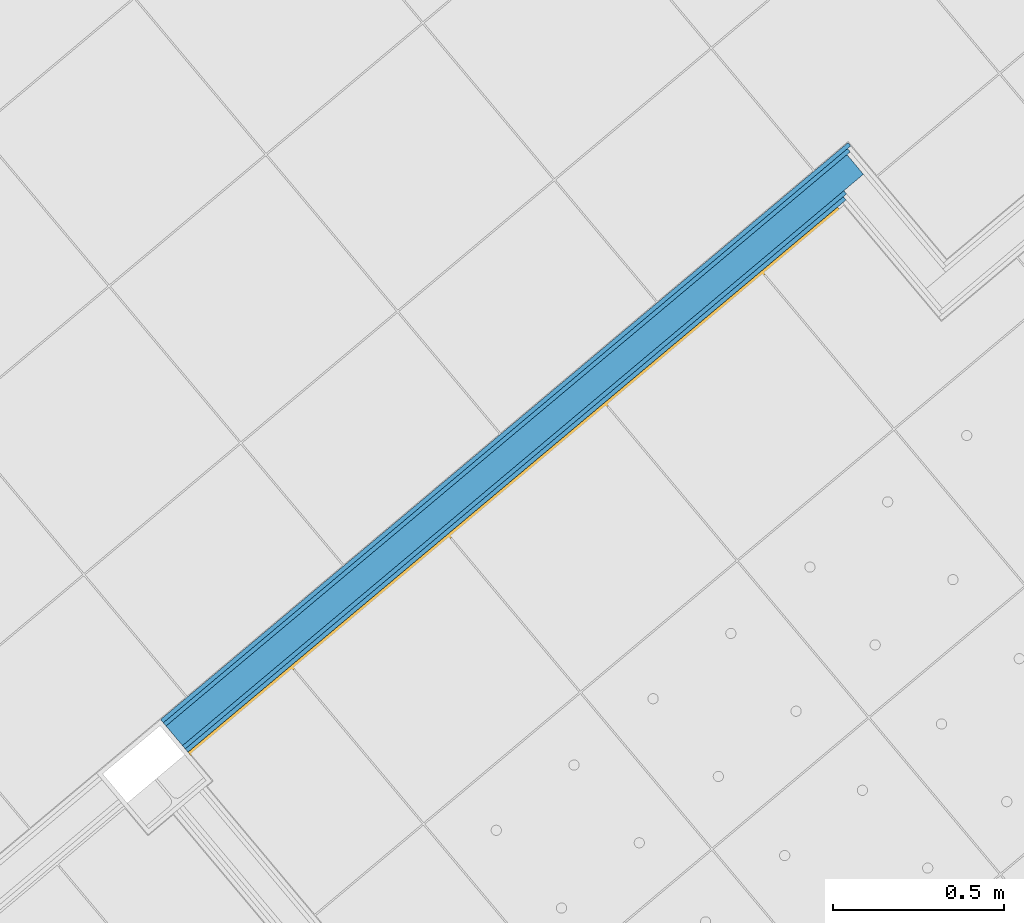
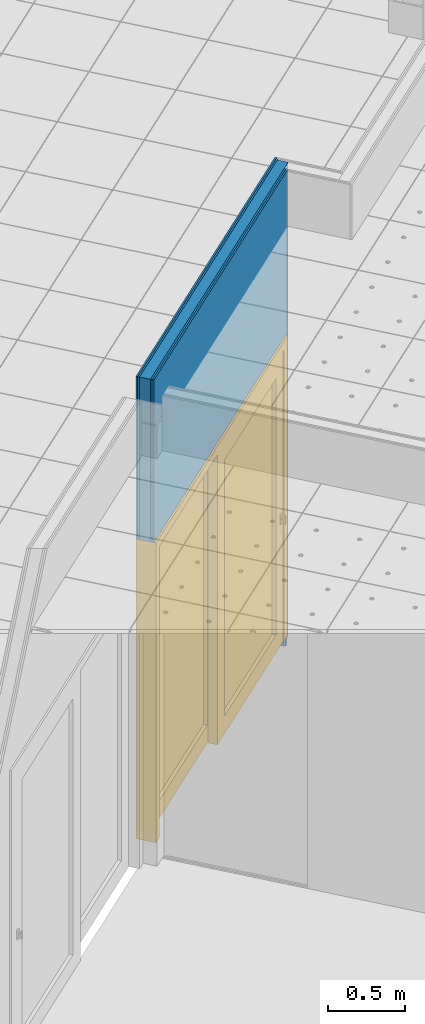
# One storey, part 8 of 338: 5 building element parts, 1 door, 1 opening, 1 element without a shape of its own.
"""IFC2X3 building model written with IfcOpenShell, lengths in millimetres."""

from ifc_helpers import new_model, entity, si_unit, converted_unit, derived_unit, money_unit, direction, frame, origin_with_axes, place, context, subcontext, project, spatial, open_shell, faceted_brep, surface_model, source, transform, mapped, material, type_object, type_shapes, element, fill, aggregate, save


model = new_model("IFC2X3")

# Units and contexts
model_context = context("Model", 3, precision=0.01, world=origin_with_axes(), true_north=direction((0.0, 1.0)))
plan_context = context("Plan", 3, precision=0.01, world=origin_with_axes(), true_north=direction((0.0, 1.0)))
body_context = subcontext(model_context, "Body", "Model", "MODEL_VIEW")
ifc_project = project(units=[si_unit("LENGTHUNIT", "METRE", prefix="MILLI"), si_unit("AREAUNIT", "SQUARE_METRE"), si_unit("VOLUMEUNIT", "CUBIC_METRE"), converted_unit("PLANEANGLEUNIT", "DEGREE", entity("IfcPlaneAngleMeasure", 0.0174532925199), si_unit("PLANEANGLEUNIT", "RADIAN"), dimensions=[0, 0, 0, 0, 0, 0, 0]), money_unit("EUR"), converted_unit("TIMEUNIT", "Year", entity("IfcTimeMeasure", 31556926.0), si_unit("TIMEUNIT", "SECOND"), dimensions=[0, 0, 1, 0, 0, 0, 0]), si_unit("MASSUNIT", "GRAM", prefix="KILO"), si_unit("THERMODYNAMICTEMPERATUREUNIT", "DEGREE_CELSIUS"), si_unit("LUMINOUSINTENSITYUNIT", "LUMEN"), si_unit("ENERGYUNIT", "JOULE", prefix="MEGA"), derived_unit("THERMALCONDUCTANCEUNIT", [(si_unit("POWERUNIT", "WATT"), 1), (si_unit("LENGTHUNIT", "METRE"), -1), (si_unit("THERMODYNAMICTEMPERATUREUNIT", "KELVIN"), -1)]), derived_unit("SPECIFICHEATCAPACITYUNIT", [(si_unit("ENERGYUNIT", "JOULE"), 1), (si_unit("MASSUNIT", "GRAM", prefix="KILO"), -1), (si_unit("THERMODYNAMICTEMPERATUREUNIT", "KELVIN"), -1)]), derived_unit("MASSDENSITYUNIT", [(si_unit("MASSUNIT", "GRAM", prefix="KILO"), 1), (si_unit("VOLUMEUNIT", "CUBIC_METRE"), -1)])], contexts=[model_context, plan_context])

# Site, building, storey
site_placement = place(None, origin_with_axes())
site = spatial("IfcSite", under=ifc_project, at=site_placement, Name="Fortuinstraat Woensdrecht", CompositionType="ELEMENT")
building_placement = place(site_placement, origin_with_axes())
building = spatial("IfcBuilding", under=site, at=building_placement, Name="IKC Fortuna", CompositionType="ELEMENT")
storey_placement = place(building_placement, origin_with_axes())
storey = spatial("IfcBuildingStorey", under=building, at=storey_placement, Name="00 begane grond", CompositionType="ELEMENT", Elevation=0.0)

# Door
door_style = type_object("IfcDoorStyle", Name="DSn 25", ConstructionType="NOTDEFINED", OperationType="USERDEFINED", ParameterTakesPrecedence=False, Sizeable=False)
shared_shape = source(origin_with_axes(), body_context, "Body", "SurfaceModel", [
    faceted_brep([(1242.5, 0.0, 0.0), (1242.5, -139.0, 0.0), (1175.5, -139.0, 0.0), (1175.5, 0.0, 0.0), (1242.5, 0.0, 2300.0), (1242.5, -139.0, 2300.0), (1175.5, -139.0, 2300.0), (1175.5, 0.0, 2300.0)], [[[0, 1, 2, 3]], [[4, 5, 1, 0]], [[1, 5, 6, 2]], [[3, 2, 6, 7]], [[0, 3, 7, 4]], [[7, 6, 5, 4]]]),
    faceted_brep([(-1242.5, 0.0, 0.0), (-1242.5, -139.0, 0.0), (-1242.5, -139.0, 2300.0), (-1242.5, 0.0, 2300.0), (-1175.5, 0.0, 0.0), (-1175.5, -139.0, 0.0), (-1175.5, -139.0, 2300.0), (-1175.5, 0.0, 2300.0)], [[[0, 1, 2, 3]], [[4, 5, 1, 0]], [[1, 5, 6, 2]], [[3, 2, 6, 7]], [[0, 3, 7, 4]], [[7, 6, 5, 4]]]),
    faceted_brep([(1242.5, 0.0, 2367.0), (1242.5, -139.0, 2367.0), (1242.5, -139.0, 2300.0), (1242.5, 0.0, 2300.0), (-1242.5, 0.0, 2367.0), (-1242.5, -139.0, 2367.0), (-1242.5, -139.0, 2300.0), (-1175.5, -139.0, 2300.0), (1175.5, -139.0, 2300.0), (1175.5, 0.0, 2300.0), (-1175.5, 0.0, 2300.0), (-1242.5, 0.0, 2300.0)], [[[0, 1, 2, 3]], [[4, 5, 1, 0]], [[1, 5, 6, 7, 8, 2]], [[3, 2, 8, 9]], [[0, 3, 9, 10, 11, 4]], [[11, 6, 5, 4]], [[10, 7, 6, 11]], [[9, 8, 7, 10]]]),
    faceted_brep([(-1175.5, 0.0, 139.0), (-1036.5, 0.0, 139.0), (-1036.5, -64.5, 139.0), (-1175.5, -64.5, 139.0), (-1175.5, 0.0, 2161.0), (-1036.5, 0.0, 2161.0), (-1036.5, -64.5, 2161.0), (-1175.5, -64.5, 2161.0)], [[[0, 1, 2, 3]], [[0, 4, 5, 1]], [[1, 5, 6, 2]], [[3, 2, 6, 7]], [[4, 0, 3, 7]], [[5, 4, 7, 6]]]),
    faceted_brep([(69.5, 0.0, 139.0), (69.5, 0.0, 2161.0), (69.5, -64.5, 2161.0), (69.5, -64.5, 139.0), (-69.5, 0.0, 139.0), (-69.5, 0.0, 2161.0), (-69.5, -64.5, 2161.0), (-69.5, -64.5, 139.0)], [[[0, 1, 2, 3]], [[0, 4, 5, 1]], [[1, 5, 6, 2]], [[3, 2, 6, 7]], [[4, 0, 3, 7]], [[5, 4, 7, 6]]]),
    faceted_brep([(-1175.5, 0.0, 0.0), (69.5, 0.0, 0.0), (69.5, -64.5, 0.0), (-1175.5, -64.5, 0.0), (-1175.5, 0.0, 139.0), (-1036.5, 0.0, 139.0), (-69.5, 0.0, 139.0), (69.5, 0.0, 139.0), (69.5, -64.5, 139.0), (-69.5, -64.5, 139.0), (-1036.5, -64.5, 139.0), (-1175.5, -64.5, 139.0)], [[[0, 1, 2, 3]], [[0, 4, 5, 6, 7, 1]], [[1, 7, 8, 2]], [[3, 2, 8, 9, 10, 11]], [[4, 0, 3, 11]], [[5, 4, 11, 10]], [[6, 5, 10, 9]], [[7, 6, 9, 8]]]),
    faceted_brep([(-1175.5, 0.0, 2300.0), (-1175.5, 0.0, 2161.0), (-1175.5, -64.5, 2161.0), (-1175.5, -64.5, 2300.0), (69.5, 0.0, 2300.0), (69.5, 0.0, 2161.0), (-69.5, 0.0, 2161.0), (-1036.5, 0.0, 2161.0), (-1036.5, -64.5, 2161.0), (-69.5, -64.5, 2161.0), (69.5, -64.5, 2161.0), (69.5, -64.5, 2300.0)], [[[0, 1, 2, 3]], [[0, 4, 5, 6, 7, 1]], [[1, 7, 8, 2]], [[3, 2, 8, 9, 10, 11]], [[4, 0, 3, 11]], [[5, 4, 11, 10]], [[6, 5, 10, 9]], [[7, 6, 9, 8]]]),
    surface_model("IfcShellBasedSurfaceModel", [(-1036.5, -26.25, 139.0), (-1036.5, -26.25, 2161.0), (-69.5, -26.25, 2161.0), (-69.5, -26.25, 139.0)], [open_shell([[[0, 1, 2, 3]]])]),
    surface_model("IfcShellBasedSurfaceModel", [(-1036.5, -38.25, 139.0), (-69.5, -38.25, 139.0), (-69.5, -38.25, 2161.0), (-1036.5, -38.25, 2161.0)], [open_shell([[[0, 1, 2, 3]]])]),
    faceted_brep([(1110.5, -134.0, 965.0), (1110.5, -144.0, 965.0), (1110.5, -144.0, 1035.0), (1110.5, -134.0, 1035.0), (1140.5, -134.0, 965.0), (1140.5, -144.0, 965.0), (1140.5, -144.0, 1035.0), (1140.5, -134.0, 1035.0)], [[[0, 1, 2, 3]], [[4, 5, 1, 0]], [[1, 5, 6, 2]], [[3, 2, 6, 7]], [[0, 3, 7, 4]], [[7, 6, 5, 4]]]),
    faceted_brep([(1124.13436775, -144.0, 1006.86549696), (1125.5, -144.0, 1007.0), (1126.86563225, -144.0, 1006.86549696), (1128.17878403, -144.0, 1006.46715673), (1129.38899163, -144.0, 1005.82028729), (1130.44974747, -144.0, 1004.94974747), (1131.32028729, -144.0, 1003.88899163), (1131.96715673, -144.0, 1002.67878403), (1132.36549696, -144.0, 1001.36563225), (1132.5, -144.0, 1000.0), (1132.36549696, -144.0, 998.634367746), (1131.96715673, -144.0, 997.321215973), (1131.32028729, -144.0, 996.111008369), (1130.44974747, -144.0, 995.050252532), (1129.38899163, -144.0, 994.179712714), (1128.17878403, -144.0, 993.532843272), (1126.86563225, -144.0, 993.134503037), (1125.5, -144.0, 993.0), (1124.13436775, -144.0, 993.134503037), (1122.82121597, -144.0, 993.532843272), (1121.61100837, -144.0, 994.179712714), (1120.55025253, -144.0, 995.050252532), (1119.67971271, -144.0, 996.111008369), (1119.03284327, -144.0, 997.321215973), (1118.63450304, -144.0, 998.634367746), (1118.5, -144.0, 1000.0), (1118.63450304, -144.0, 1001.36563225), (1119.03284327, -144.0, 1002.67878403), (1119.67971271, -144.0, 1003.88899163), (1120.55025253, -144.0, 1004.94974747), (1121.61100837, -144.0, 1005.82028729), (1122.82121597, -144.0, 1006.46715673), (1124.13436775, -159.0, 1006.86549696), (1125.5, -159.0, 1007.0), (1126.86563225, -159.0, 1006.86549696), (1128.17878403, -159.0, 1006.46715673), (1129.38899163, -159.0, 1005.82028729), (1130.44974747, -159.0, 1004.94974747), (1131.32028729, -159.0, 1003.88899163), (1131.96715673, -159.0, 1002.67878403), (1132.36549696, -159.0, 1001.36563225), (1132.5, -159.0, 1000.0), (1132.36549696, -159.0, 998.634367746), (1131.96715673, -159.0, 997.321215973), (1131.32028729, -159.0, 996.111008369), (1130.44974747, -159.0, 995.050252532), (1129.38899163, -159.0, 994.179712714), (1128.17878403, -159.0, 993.532843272), (1126.86563225, -159.0, 993.134503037), (1125.5, -159.0, 993.0), (1124.13436775, -159.0, 993.134503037), (1122.82121597, -159.0, 993.532843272), (1121.61100837, -159.0, 994.179712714), (1120.55025253, -159.0, 995.050252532), (1119.67971271, -159.0, 996.111008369), (1119.03284327, -159.0, 997.321215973), (1118.63450304, -159.0, 998.634367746), (1118.5, -159.0, 1000.0), (1118.63450304, -159.0, 1001.36563225), (1119.03284327, -159.0, 1002.67878403), (1119.67971271, -159.0, 1003.88899163), (1120.55025253, -159.0, 1004.94974747), (1121.61100837, -159.0, 1005.82028729), (1122.82121597, -159.0, 1006.46715673)], [[[0, 1, 2, 3, 4, 5, 6, 7, 8, 9, 10, 11, 12, 13, 14, 15, 16, 17, 18, 19, 20, 21, 22, 23, 24, 25, 26, 27, 28, 29, 30, 31]], [[0, 32, 33, 1]], [[1, 33, 34, 2]], [[2, 34, 35, 3]], [[3, 35, 36, 4]], [[4, 36, 37, 5]], [[5, 37, 38, 6]], [[6, 38, 39, 7]], [[7, 39, 40, 8]], [[8, 40, 41, 9]], [[9, 41, 42, 10]], [[10, 42, 43, 11]], [[11, 43, 44, 12]], [[12, 44, 45, 13]], [[13, 45, 46, 14]], [[14, 46, 47, 15]], [[15, 47, 48, 16]], [[16, 48, 49, 17]], [[17, 49, 50, 18]], [[18, 50, 51, 19]], [[19, 51, 52, 20]], [[20, 52, 53, 21]], [[21, 53, 54, 22]], [[22, 54, 55, 23]], [[23, 55, 56, 24]], [[24, 56, 57, 25]], [[25, 57, 58, 26]], [[26, 58, 59, 27]], [[27, 59, 60, 28]], [[28, 60, 61, 29]], [[29, 61, 62, 30]], [[30, 62, 63, 31]], [[31, 63, 32, 0]], [[32, 63, 62, 61, 60, 59, 58, 57, 56, 55, 54, 53, 52, 51, 50, 49, 48, 47, 46, 45, 44, 43, 42, 41, 40, 39, 38, 37, 36, 35, 34, 33]]]),
    faceted_brep([(1115.5, -159.0, 990.0), (1115.5, -169.0, 990.0), (1115.5, -169.0, 1010.0), (1115.5, -159.0, 1010.0), (1135.5, -159.0, 990.0), (1135.5, -169.0, 990.0), (1135.5, -169.0, 1010.0), (1135.5, -159.0, 1010.0)], [[[0, 1, 2, 3]], [[4, 5, 1, 0]], [[1, 5, 6, 2]], [[3, 2, 6, 7]], [[0, 3, 7, 4]], [[7, 6, 5, 4]]]),
    faceted_brep([(1115.5, -169.0, 990.0), (1120.5, -167.0, 965.0), (1130.5, -167.0, 965.0), (1135.5, -169.0, 990.0), (1115.5, -159.0, 990.0), (1120.5, -163.0, 965.0), (1130.5, -163.0, 965.0), (1135.5, -159.0, 990.0)], [[[0, 1, 2, 3]], [[4, 5, 1, 0]], [[1, 5, 6, 2]], [[3, 2, 6, 7]], [[0, 3, 7, 4]], [[7, 6, 5, 4]]]),
    faceted_brep([(1115.5, -169.0, 1010.0), (1135.5, -169.0, 1010.0), (1130.5, -167.0, 1035.0), (1120.5, -167.0, 1035.0), (1115.5, -159.0, 1010.0), (1135.5, -159.0, 1010.0), (1130.5, -163.0, 1035.0), (1120.5, -163.0, 1035.0)], [[[0, 1, 2, 3]], [[0, 4, 5, 1]], [[1, 5, 6, 2]], [[3, 2, 6, 7]], [[4, 0, 3, 7]], [[5, 4, 7, 6]]]),
    faceted_brep([(1110.5, -69.5, 965.0), (1110.5, -69.5, 1035.0), (1110.5, -59.5, 1035.0), (1110.5, -59.5, 965.0), (1140.5, -69.5, 965.0), (1140.5, -69.5, 1035.0), (1140.5, -59.5, 1035.0), (1140.5, -59.5, 965.0)], [[[0, 1, 2, 3]], [[0, 4, 5, 1]], [[1, 5, 6, 2]], [[3, 2, 6, 7]], [[4, 0, 3, 7]], [[5, 4, 7, 6]]]),
    faceted_brep([(1124.13436775, -59.5, 1006.86549696), (1122.82121597, -59.5, 1006.46715673), (1121.61100837, -59.5, 1005.82028729), (1120.55025253, -59.5, 1004.94974747), (1119.67971271, -59.5, 1003.88899163), (1119.03284327, -59.5, 1002.67878403), (1118.63450304, -59.5, 1001.36563225), (1118.5, -59.5, 1000.0), (1118.63450304, -59.5, 998.634367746), (1119.03284327, -59.5, 997.321215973), (1119.67971271, -59.5, 996.111008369), (1120.55025253, -59.5, 995.050252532), (1121.61100837, -59.5, 994.179712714), (1122.82121597, -59.5, 993.532843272), (1124.13436775, -59.5, 993.134503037), (1125.5, -59.5, 993.0), (1126.86563225, -59.5, 993.134503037), (1128.17878403, -59.5, 993.532843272), (1129.38899163, -59.5, 994.179712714), (1130.44974747, -59.5, 995.050252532), (1131.32028729, -59.5, 996.111008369), (1131.96715673, -59.5, 997.321215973), (1132.36549696, -59.5, 998.634367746), (1132.5, -59.5, 1000.0), (1132.36549696, -59.5, 1001.36563225), (1131.96715673, -59.5, 1002.67878403), (1131.32028729, -59.5, 1003.88899163), (1130.44974747, -59.5, 1004.94974747), (1129.38899163, -59.5, 1005.82028729), (1128.17878403, -59.5, 1006.46715673), (1126.86563225, -59.5, 1006.86549696), (1125.5, -59.5, 1007.0), (1124.13436775, -44.5, 1006.86549696), (1122.82121597, -44.5, 1006.46715673), (1121.61100837, -44.5, 1005.82028729), (1120.55025253, -44.5, 1004.94974747), (1119.67971271, -44.5, 1003.88899163), (1119.03284327, -44.5, 1002.67878403), (1118.63450304, -44.5, 1001.36563225), (1118.5, -44.5, 1000.0), (1118.63450304, -44.5, 998.634367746), (1119.03284327, -44.5, 997.321215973), (1119.67971271, -44.5, 996.111008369), (1120.55025253, -44.5, 995.050252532), (1121.61100837, -44.5, 994.179712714), (1122.82121597, -44.5, 993.532843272), (1124.13436775, -44.5, 993.134503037), (1125.5, -44.5, 993.0), (1126.86563225, -44.5, 993.134503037), (1128.17878403, -44.5, 993.532843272), (1129.38899163, -44.5, 994.179712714), (1130.44974747, -44.5, 995.050252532), (1131.32028729, -44.5, 996.111008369), (1131.96715673, -44.5, 997.321215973), (1132.36549696, -44.5, 998.634367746), (1132.5, -44.5, 1000.0), (1132.36549696, -44.5, 1001.36563225), (1131.96715673, -44.5, 1002.67878403), (1131.32028729, -44.5, 1003.88899163), (1130.44974747, -44.5, 1004.94974747), (1129.38899163, -44.5, 1005.82028729), (1128.17878403, -44.5, 1006.46715673), (1126.86563225, -44.5, 1006.86549696), (1125.5, -44.5, 1007.0)], [[[0, 1, 2, 3, 4, 5, 6, 7, 8, 9, 10, 11, 12, 13, 14, 15, 16, 17, 18, 19, 20, 21, 22, 23, 24, 25, 26, 27, 28, 29, 30, 31]], [[1, 0, 32, 33]], [[2, 1, 33, 34]], [[3, 2, 34, 35]], [[4, 3, 35, 36]], [[5, 4, 36, 37]], [[6, 5, 37, 38]], [[7, 6, 38, 39]], [[8, 7, 39, 40]], [[9, 8, 40, 41]], [[10, 9, 41, 42]], [[11, 10, 42, 43]], [[12, 11, 43, 44]], [[13, 12, 44, 45]], [[14, 13, 45, 46]], [[15, 14, 46, 47]], [[16, 15, 47, 48]], [[17, 16, 48, 49]], [[18, 17, 49, 50]], [[19, 18, 50, 51]], [[20, 19, 51, 52]], [[21, 20, 52, 53]], [[22, 21, 53, 54]], [[23, 22, 54, 55]], [[24, 23, 55, 56]], [[25, 24, 56, 57]], [[26, 25, 57, 58]], [[27, 26, 58, 59]], [[28, 27, 59, 60]], [[29, 28, 60, 61]], [[30, 29, 61, 62]], [[31, 30, 62, 63]], [[0, 31, 63, 32]], [[32, 63, 62, 61, 60, 59, 58, 57, 56, 55, 54, 53, 52, 51, 50, 49, 48, 47, 46, 45, 44, 43, 42, 41, 40, 39, 38, 37, 36, 35, 34, 33]]]),
    faceted_brep([(1115.5, -44.5, 990.0), (1115.5, -44.5, 1010.0), (1115.5, -34.5, 1010.0), (1115.5, -34.5, 990.0), (1135.5, -44.5, 990.0), (1135.5, -44.5, 1010.0), (1135.5, -34.5, 1010.0), (1135.5, -34.5, 990.0)], [[[0, 1, 2, 3]], [[0, 4, 5, 1]], [[1, 5, 6, 2]], [[3, 2, 6, 7]], [[4, 0, 3, 7]], [[5, 4, 7, 6]]]),
    faceted_brep([(1115.5, -34.5, 990.0), (1135.5, -34.5, 990.0), (1130.5, -36.5, 965.0), (1120.5, -36.5, 965.0), (1115.5, -44.5, 990.0), (1135.5, -44.5, 990.0), (1130.5, -40.5, 965.0), (1120.5, -40.5, 965.0)], [[[0, 1, 2, 3]], [[0, 4, 5, 1]], [[1, 5, 6, 2]], [[3, 2, 6, 7]], [[4, 0, 3, 7]], [[5, 4, 7, 6]]]),
    faceted_brep([(1115.5, -34.5, 1010.0), (1120.5, -36.5, 1035.0), (1130.5, -36.5, 1035.0), (1135.5, -34.5, 1010.0), (1115.5, -44.5, 1010.0), (1120.5, -40.5, 1035.0), (1130.5, -40.5, 1035.0), (1135.5, -44.5, 1010.0)], [[[0, 1, 2, 3]], [[4, 5, 1, 0]], [[1, 5, 6, 2]], [[3, 2, 6, 7]], [[0, 3, 7, 4]], [[7, 6, 5, 4]]]),
    faceted_brep([(-69.5, -69.5, 139.0), (69.5, -69.5, 139.0), (69.5, -134.0, 139.0), (-69.5, -134.0, 139.0), (-69.5, -69.5, 2161.0), (69.5, -69.5, 2161.0), (69.5, -134.0, 2161.0), (-69.5, -134.0, 2161.0)], [[[0, 1, 2, 3]], [[0, 4, 5, 1]], [[1, 5, 6, 2]], [[3, 2, 6, 7]], [[4, 0, 3, 7]], [[5, 4, 7, 6]]]),
    faceted_brep([(1175.5, -69.5, 139.0), (1175.5, -69.5, 2161.0), (1175.5, -134.0, 2161.0), (1175.5, -134.0, 139.0), (1036.5, -69.5, 139.0), (1036.5, -69.5, 2161.0), (1036.5, -134.0, 2161.0), (1036.5, -134.0, 139.0)], [[[0, 1, 2, 3]], [[0, 4, 5, 1]], [[1, 5, 6, 2]], [[3, 2, 6, 7]], [[4, 0, 3, 7]], [[5, 4, 7, 6]]]),
    faceted_brep([(-69.5, -69.5, 0.0), (1175.5, -69.5, 0.0), (1175.5, -134.0, 0.0), (-69.5, -134.0, 0.0), (-69.5, -69.5, 139.0), (69.5, -69.5, 139.0), (1036.5, -69.5, 139.0), (1175.5, -69.5, 139.0), (1175.5, -134.0, 139.0), (1036.5, -134.0, 139.0), (69.5, -134.0, 139.0), (-69.5, -134.0, 139.0)], [[[0, 1, 2, 3]], [[0, 4, 5, 6, 7, 1]], [[1, 7, 8, 2]], [[3, 2, 8, 9, 10, 11]], [[4, 0, 3, 11]], [[5, 4, 11, 10]], [[6, 5, 10, 9]], [[7, 6, 9, 8]]]),
    faceted_brep([(-69.5, -69.5, 2300.0), (-69.5, -69.5, 2161.0), (-69.5, -134.0, 2161.0), (-69.5, -134.0, 2300.0), (1175.5, -69.5, 2300.0), (1175.5, -69.5, 2161.0), (1036.5, -69.5, 2161.0), (69.5, -69.5, 2161.0), (69.5, -134.0, 2161.0), (1036.5, -134.0, 2161.0), (1175.5, -134.0, 2161.0), (1175.5, -134.0, 2300.0)], [[[0, 1, 2, 3]], [[0, 4, 5, 6, 7, 1]], [[1, 7, 8, 2]], [[3, 2, 8, 9, 10, 11]], [[4, 0, 3, 11]], [[5, 4, 11, 10]], [[6, 5, 10, 9]], [[7, 6, 9, 8]]]),
    surface_model("IfcShellBasedSurfaceModel", [(69.5, -95.75, 139.0), (69.5, -95.75, 2161.0), (1036.5, -95.75, 2161.0), (1036.5, -95.75, 139.0)], [open_shell([[[0, 1, 2, 3]]])]),
    surface_model("IfcShellBasedSurfaceModel", [(69.5, -107.75, 139.0), (1036.5, -107.75, 139.0), (1036.5, -107.75, 2161.0), (69.5, -107.75, 2161.0)], [open_shell([[[0, 1, 2, 3]]])]),
])
type_shapes(door_style, [shared_shape])
wall_placement = place(storey_placement, frame((15225.7031163, -6245.86044718, 1360.0), z_axis=(0.0, 0.0, 1.0), x_axis=(0.766044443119, 0.642787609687, 0.0)))
opening_placement = place(wall_placement, frame((1242.5, 0.0, 90.0), z_axis=(0.0, 0.0, 1.0), x_axis=(1.0, 0.0, 0.0)))
door_placement = place(opening_placement, frame((-1242.5, 0.0, 0.0), z_axis=(0.0, 0.0, 1.0), x_axis=(1.0, 0.0, 0.0)))
door = element("IfcDoor", 1, at=door_placement, inside=storey, type_object=door_style, Name="32_Deur_h.03", ObjectType="DOOR", OverallHeight=2367.0, OverallWidth=2485.0, context=body_context, shape_type="MappedRepresentation", body=[
    mapped(shared_shape, transform((1242.5, 125.0, 0.0))),
])

# Wall, opening
wall_type = type_object("IfcWallType", Name="MS125 2.75.2A 125", PredefinedType="NOTDEFINED")
wall = element("IfcWall", 2, at=wall_placement, inside=storey, type_object=wall_type, Name="22_Wand_Binnenwand")
opening = element("IfcOpeningElement", 3, at=opening_placement, cuts=wall, Name="32_Deur_h.03", context=body_context, shape_type="Brep", body=[
    faceted_brep([(-1242.5, 250.0, 2367.0), (-1242.5, 250.0, -90.0), (-1242.5, -125.0, -90.0), (-1242.5, -125.0, 2367.0), (1242.5, 250.0, 2367.0), (1242.5, 250.0, -90.0), (1242.5, -125.0, -90.0), (1242.5, -125.0, 2367.0)], [[[0, 1, 2, 3]], [[0, 4, 5, 1]], [[1, 5, 6, 2]], [[3, 2, 6, 7]], [[4, 0, 3, 7]], [[5, 4, 7, 6]]]),
])

fill(opening, door)

# Building element part
ifc_material_1 = material(Name="Gipsplaat")
building_element_part_1_placement = place(wall_placement, origin_with_axes())
building_element_part_1 = element("IfcBuildingElementPart", 4, at=building_element_part_1_placement, material=ifc_material_1, Name="Gipsplaat", context=body_context, shape_type="Brep", body=[
    faceted_brep([(2485.0, 112.5, 2457.0), (2485.0, 112.5, 0.0), (2630.19691481, 112.5, 0.0), (2630.19691481, 112.5, 3740.0), (0.0, 112.5, 3740.0), (0.0, 112.5, 2457.0), (2485.0, 125.0, 2457.0), (2485.0, 125.0, 0.0), (2630.19691481, 125.0, 0.0), (2630.19691481, 125.0, 3740.0), (0.0, 125.0, 3740.0), (0.0, 125.0, 2457.0)], [[[0, 1, 2, 3, 4, 5]], [[1, 0, 6, 7]], [[1, 7, 8, 2]], [[2, 8, 9, 3]], [[10, 4, 3, 9]], [[11, 5, 4, 10]], [[0, 5, 11, 6]], [[6, 11, 10, 9, 8, 7]]]),
])

building_element_part_2_placement = place(wall_placement, origin_with_axes())
building_element_part_2 = element("IfcBuildingElementPart", 5, at=building_element_part_2_placement, material=ifc_material_1, Name="Gipsplaat", context=body_context, shape_type="Brep", body=[
    faceted_brep([(2485.0, 100.0, 2457.0), (2485.0, 100.0, 0.0), (2617.69691481, 100.0, 0.0), (2617.69691481, 100.0, 3740.0), (0.0, 100.0, 3740.0), (0.0, 100.0, 2457.0), (2485.0, 112.5, 2457.0), (2485.0, 112.5, 0.0), (2617.69691481, 112.5, 0.0), (2617.69691481, 112.5, 3740.0), (0.0, 112.5, 3740.0), (0.0, 112.5, 2457.0)], [[[0, 1, 2, 3, 4, 5]], [[1, 0, 6, 7]], [[1, 7, 8, 2]], [[2, 8, 9, 3]], [[10, 4, 3, 9]], [[11, 5, 4, 10]], [[0, 5, 11, 6]], [[6, 11, 10, 9, 8, 7]]]),
])

ifc_material_2 = material(Name="Isolatie - Steenwol LSW")
building_element_part_3_placement = place(wall_placement, origin_with_axes())
building_element_part_3 = element("IfcBuildingElementPart", 6, at=building_element_part_3_placement, material=ifc_material_2, Name="Isolatie - Steenwol LSW", context=body_context, shape_type="Brep", body=[
    faceted_brep([(2485.0, 25.0, 2457.0), (2485.0, 25.0, 0.0), (2605.19691481, 25.0, 0.0), (2605.19691481, 25.0, 3740.0), (0.0, 25.0, 3740.0), (0.0, 25.0, 2457.0), (2485.0, 100.0, 2457.0), (2485.0, 100.0, 0.0), (2605.19691481, 100.0, 0.0), (2605.19691481, 100.0, 3740.0), (0.0, 100.0, 3740.0), (0.0, 100.0, 2457.0)], [[[0, 1, 2, 3, 4, 5]], [[1, 0, 6, 7]], [[1, 7, 8, 2]], [[2, 8, 9, 3]], [[10, 4, 3, 9]], [[11, 5, 4, 10]], [[0, 5, 11, 6]], [[6, 11, 10, 9, 8, 7]]]),
])

building_element_part_4_placement = place(wall_placement, origin_with_axes())
building_element_part_4 = element("IfcBuildingElementPart", 7, at=building_element_part_4_placement, material=ifc_material_1, Name="Gipsplaat", context=body_context, shape_type="Brep", body=[
    faceted_brep([(2485.0, 12.5, 2457.0), (2485.0, 12.5, 0.0), (2530.19691481, 12.5, 0.0), (2530.19691481, 12.5, 3740.0), (0.0, 12.5, 3740.0), (0.0, 12.5, 2457.0), (2485.0, 25.0, 2457.0), (2485.0, 25.0, 0.0), (2530.19691481, 25.0, 0.0), (2530.19691481, 25.0, 3740.0), (0.0, 25.0, 3740.0), (0.0, 25.0, 2457.0)], [[[0, 1, 2, 3, 4, 5]], [[1, 0, 6, 7]], [[1, 7, 8, 2]], [[2, 8, 9, 3]], [[10, 4, 3, 9]], [[11, 5, 4, 10]], [[0, 5, 11, 6]], [[6, 11, 10, 9, 8, 7]]]),
])

building_element_part_5_placement = place(wall_placement, origin_with_axes())
building_element_part_5 = element("IfcBuildingElementPart", 8, at=building_element_part_5_placement, material=ifc_material_1, Name="Gipsplaat", context=body_context, shape_type="Brep", body=[
    faceted_brep([(2485.0, 0.0, 2457.0), (2485.0, 0.0, 0.0), (2517.69691481, 0.0, 0.0), (2517.69691481, 0.0, 3740.0), (0.0, 0.0, 3740.0), (0.0, 0.0, 2457.0), (2485.0, 12.5, 2457.0), (2485.0, 12.5, 0.0), (2517.69691481, 12.5, 0.0), (2517.69691481, 12.5, 3740.0), (0.0, 12.5, 3740.0), (0.0, 12.5, 2457.0)], [[[0, 1, 2, 3, 4, 5]], [[1, 0, 6, 7]], [[1, 7, 8, 2]], [[2, 8, 9, 3]], [[10, 4, 3, 9]], [[11, 5, 4, 10]], [[0, 5, 11, 6]], [[6, 11, 10, 9, 8, 7]]]),
])

aggregate(wall, [building_element_part_1, building_element_part_2, building_element_part_3, building_element_part_4, building_element_part_5])

save(model, "model.ifc")
